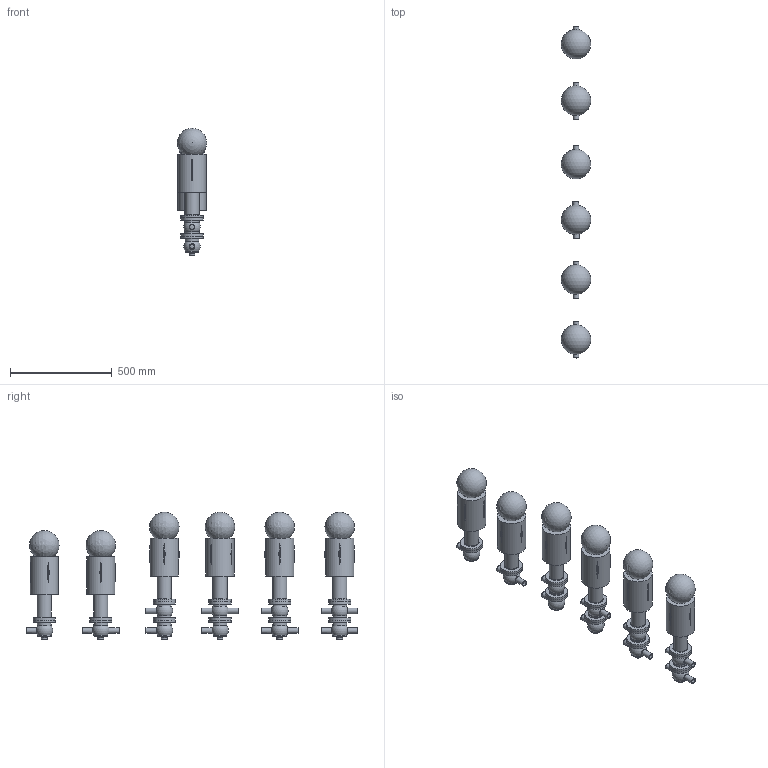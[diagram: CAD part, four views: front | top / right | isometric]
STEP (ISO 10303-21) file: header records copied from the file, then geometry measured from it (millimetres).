
FILE_DESCRIPTION(/* description */ (''),/* implementation_level */ '2;1');
FILE_NAME(/* name */ 'C:\Users\marz-m\Desktop\PDF\BBZQ 3D STEP\BBZQ-DN25-CIL.134.stp',/* time_stamp */ '2018-04-13T14:16:41+02:00',/* author */ ('marz-m'),/* organization */ (''),/* preprocessor_version */ 'ST-DEVELOPER v17',/* originating_system */ 'Autodesk Inventor 2018',/* authorisation */ '');
FILE_SCHEMA (('AUTOMOTIVE_DESIGN { 1 0 10303 214 3 1 1 }'));
Length unit declared in the file: millimetre
Products named in the file (8): BBZQ-CIL.134-DN25; COR-INF-L-BBZQ-DN028X2.5-SALD; COR-INF-T-BBZQ-DN028X2.5-SALD; assemblaggio dn40 per cil 108-156; CIL134; SAGOMA-GIOTTO-; CORPO-SUP-BBZQ-L-DN28X2.5-SALD; CORPO-SUP-BBZQ-T-DN28X2.5-SALD
Assembly tree (28 placements, depth 2):
  BBZQ-CIL.134-DN25
    COR-INF-L-BBZQ-DN028X2.5-SALD  x3
    COR-INF-T-BBZQ-DN028X2.5-SALD  x3
    assemblaggio dn40 per cil 108-156  x6
    CIL134  x6
    SAGOMA-GIOTTO-  x6
    CORPO-SUP-BBZQ-L-DN28X2.5-SALD  x2
    CORPO-SUP-BBZQ-T-DN28X2.5-SALD  x2
Bounding box: 144.75 x 1630.17 x 625.47 mm (x, y, z)
Volume: 34183338.1 mm3; surface area: 1955062.5 mm2
Topology: 28 solids, 28 shells, 416 faces, 1056 edges, 744 vertices
Faces by surface type: plane 154, cylinder 103, torus 74, cone 54, sphere 31
Full cylindrical faces by diameter (mm): 20 x12, 23 x18, 28 x21, 68 x20, 69 x6, 109 x20, 139 x6
Entity records: 4272 total; most frequent: CARTESIAN_POINT 1095, DIRECTION 684, ORIENTED_EDGE 540, AXIS2_PLACEMENT_3D 323, EDGE_CURVE 270, VERTEX_POINT 194, CIRCLE 166, EDGE_LOOP 140
